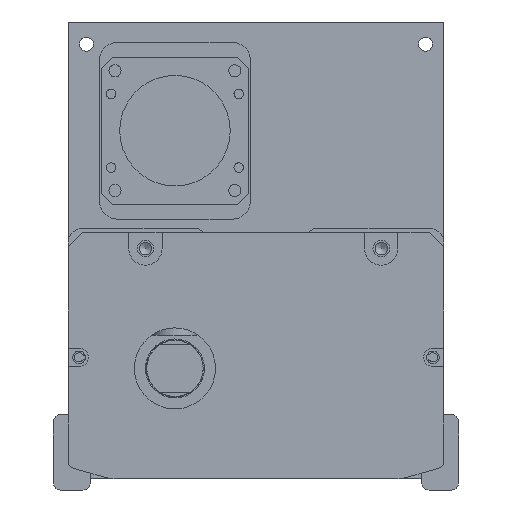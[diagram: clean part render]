
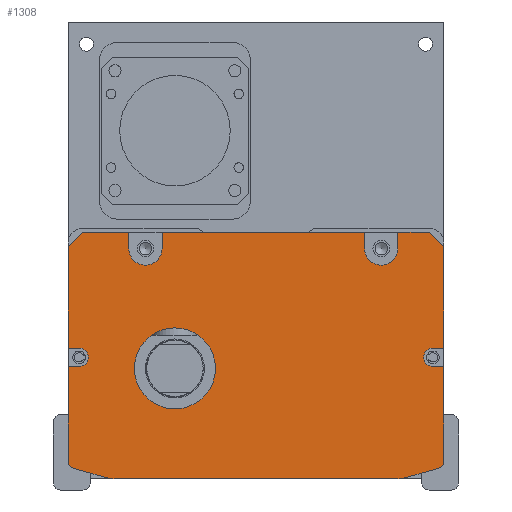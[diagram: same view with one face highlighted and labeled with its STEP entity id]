
A CAD part, front view. The second image highlights one B-rep face of the part: STEP entity #1308.
In plain terms, the highlighted planar face has unit normal (0, -1, 0).
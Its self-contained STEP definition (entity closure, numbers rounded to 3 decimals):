
#1308=ADVANCED_FACE('',(#3107,#3108),#2065,.F.);
#2065=PLANE('',#12679);
#2438=CIRCLE('',#12670,4.5);
#2439=CIRCLE('',#12671,4.5);
#2440=CIRCLE('',#12672,2.5);
#2441=CIRCLE('',#12673,2.);
#2442=CIRCLE('',#12674,10.);
#2443=CIRCLE('',#12675,10.);
#2444=CIRCLE('',#12676,2.);
#2445=CIRCLE('',#12677,2.5);
#2446=CIRCLE('',#12678,11.);
#3107=FACE_BOUND('',#3717,.T.);
#3108=FACE_BOUND('',#3718,.T.);
#3717=EDGE_LOOP('',(#4946,#4947,#4948,#4949,#4950,#4951,#4952,#4953,#4954,
#4955,#4956,#4957,#4958,#4959,#4960,#4961,#4962,#4963,#4964,#4965,#4966,
#4967,#4968,#4969,#4970,#4971,#4972,#4973));
#3718=EDGE_LOOP('',(#4974));
#4946=ORIENTED_EDGE('',*,*,#9535,.T.);
#4947=ORIENTED_EDGE('',*,*,#9536,.T.);
#4948=ORIENTED_EDGE('',*,*,#9537,.T.);
#4949=ORIENTED_EDGE('',*,*,#9538,.F.);
#4950=ORIENTED_EDGE('',*,*,#9539,.T.);
#4951=ORIENTED_EDGE('',*,*,#9540,.F.);
#4952=ORIENTED_EDGE('',*,*,#9541,.T.);
#4953=ORIENTED_EDGE('',*,*,#9542,.F.);
#4954=ORIENTED_EDGE('',*,*,#9543,.T.);
#4955=ORIENTED_EDGE('',*,*,#9544,.F.);
#4956=ORIENTED_EDGE('',*,*,#9545,.T.);
#4957=ORIENTED_EDGE('',*,*,#9546,.T.);
#4958=ORIENTED_EDGE('',*,*,#9547,.T.);
#4959=ORIENTED_EDGE('',*,*,#9548,.T.);
#4960=ORIENTED_EDGE('',*,*,#9549,.T.);
#4961=ORIENTED_EDGE('',*,*,#9550,.T.);
#4962=ORIENTED_EDGE('',*,*,#9551,.T.);
#4963=ORIENTED_EDGE('',*,*,#9552,.T.);
#4964=ORIENTED_EDGE('',*,*,#9553,.T.);
#4965=ORIENTED_EDGE('',*,*,#9554,.T.);
#4966=ORIENTED_EDGE('',*,*,#9555,.T.);
#4967=ORIENTED_EDGE('',*,*,#9556,.T.);
#4968=ORIENTED_EDGE('',*,*,#9557,.T.);
#4969=ORIENTED_EDGE('',*,*,#9558,.T.);
#4970=ORIENTED_EDGE('',*,*,#9559,.T.);
#4971=ORIENTED_EDGE('',*,*,#9560,.T.);
#4972=ORIENTED_EDGE('',*,*,#9561,.T.);
#4973=ORIENTED_EDGE('',*,*,#9562,.T.);
#4974=ORIENTED_EDGE('',*,*,#9563,.T.);
#8327=VERTEX_POINT('',#18117);
#8328=VERTEX_POINT('',#18118);
#8329=VERTEX_POINT('',#18120);
#8330=VERTEX_POINT('',#18122);
#8331=VERTEX_POINT('',#18124);
#8332=VERTEX_POINT('',#18126);
#8333=VERTEX_POINT('',#18128);
#8334=VERTEX_POINT('',#18130);
#8335=VERTEX_POINT('',#18132);
#8336=VERTEX_POINT('',#18134);
#8337=VERTEX_POINT('',#18136);
#8338=VERTEX_POINT('',#18138);
#8339=VERTEX_POINT('',#18140);
#8340=VERTEX_POINT('',#18142);
#8341=VERTEX_POINT('',#18144);
#8342=VERTEX_POINT('',#18146);
#8343=VERTEX_POINT('',#18148);
#8344=VERTEX_POINT('',#18150);
#8345=VERTEX_POINT('',#18152);
#8346=VERTEX_POINT('',#18154);
#8347=VERTEX_POINT('',#18156);
#8348=VERTEX_POINT('',#18158);
#8349=VERTEX_POINT('',#18160);
#8350=VERTEX_POINT('',#18162);
#8351=VERTEX_POINT('',#18164);
#8352=VERTEX_POINT('',#18166);
#8353=VERTEX_POINT('',#18168);
#8354=VERTEX_POINT('',#18170);
#8355=VERTEX_POINT('',#18173);
#9535=EDGE_CURVE('',#8327,#8328,#11138,.T.);
#9536=EDGE_CURVE('',#8328,#8329,#11139,.T.);
#9537=EDGE_CURVE('',#8329,#8330,#11140,.T.);
#9538=EDGE_CURVE('',#8331,#8330,#11141,.T.);
#9539=EDGE_CURVE('',#8331,#8332,#2438,.T.);
#9540=EDGE_CURVE('',#8333,#8332,#11142,.T.);
#9541=EDGE_CURVE('',#8333,#8334,#11143,.T.);
#9542=EDGE_CURVE('',#8335,#8334,#11144,.T.);
#9543=EDGE_CURVE('',#8335,#8336,#2439,.T.);
#9544=EDGE_CURVE('',#8337,#8336,#11145,.T.);
#9545=EDGE_CURVE('',#8337,#8338,#11146,.T.);
#9546=EDGE_CURVE('',#8338,#8339,#11147,.T.);
#9547=EDGE_CURVE('',#8339,#8340,#11148,.T.);
#9548=EDGE_CURVE('',#8340,#8341,#11149,.T.);
#9549=EDGE_CURVE('',#8341,#8342,#2440,.T.);
#9550=EDGE_CURVE('',#8342,#8343,#11150,.T.);
#9551=EDGE_CURVE('',#8343,#8344,#11151,.T.);
#9552=EDGE_CURVE('',#8344,#8345,#2441,.T.);
#9553=EDGE_CURVE('',#8345,#8346,#11152,.T.);
#9554=EDGE_CURVE('',#8346,#8347,#2442,.T.);
#9555=EDGE_CURVE('',#8347,#8348,#11153,.T.);
#9556=EDGE_CURVE('',#8348,#8349,#2443,.T.);
#9557=EDGE_CURVE('',#8349,#8350,#11154,.T.);
#9558=EDGE_CURVE('',#8350,#8351,#2444,.T.);
#9559=EDGE_CURVE('',#8351,#8352,#11155,.T.);
#9560=EDGE_CURVE('',#8352,#8353,#11156,.T.);
#9561=EDGE_CURVE('',#8353,#8354,#2445,.T.);
#9562=EDGE_CURVE('',#8354,#8327,#11157,.T.);
#9563=EDGE_CURVE('',#8355,#8355,#2446,.T.);
#11138=LINE('',#18116,#11900);
#11139=LINE('',#18119,#11901);
#11140=LINE('',#18121,#11902);
#11141=LINE('',#18123,#11903);
#11142=LINE('',#18127,#11904);
#11143=LINE('',#18129,#11905);
#11144=LINE('',#18131,#11906);
#11145=LINE('',#18135,#11907);
#11146=LINE('',#18137,#11908);
#11147=LINE('',#18139,#11909);
#11148=LINE('',#18141,#11910);
#11149=LINE('',#18143,#11911);
#11150=LINE('',#18147,#11912);
#11151=LINE('',#18149,#11913);
#11152=LINE('',#18153,#11914);
#11153=LINE('',#18157,#11915);
#11154=LINE('',#18161,#11916);
#11155=LINE('',#18165,#11917);
#11156=LINE('',#18167,#11918);
#11157=LINE('',#18171,#11919);
#11900=VECTOR('',#14347,1.);
#11901=VECTOR('',#14348,1.);
#11902=VECTOR('',#14349,1.);
#11903=VECTOR('',#14350,1.);
#11904=VECTOR('',#14353,1.);
#11905=VECTOR('',#14354,1.);
#11906=VECTOR('',#14355,1.);
#11907=VECTOR('',#14358,1.);
#11908=VECTOR('',#14359,1.);
#11909=VECTOR('',#14360,1.);
#11910=VECTOR('',#14361,1.);
#11911=VECTOR('',#14362,1.);
#11912=VECTOR('',#14365,1.);
#11913=VECTOR('',#14366,1.);
#11914=VECTOR('',#14369,1.);
#11915=VECTOR('',#14372,1.);
#11916=VECTOR('',#14375,1.);
#11917=VECTOR('',#14378,1.);
#11918=VECTOR('',#14379,1.);
#11919=VECTOR('',#14382,1.);
#12670=AXIS2_PLACEMENT_3D('',#18125,#14351,#14352);
#12671=AXIS2_PLACEMENT_3D('',#18133,#14356,#14357);
#12672=AXIS2_PLACEMENT_3D('',#18145,#14363,#14364);
#12673=AXIS2_PLACEMENT_3D('',#18151,#14367,#14368);
#12674=AXIS2_PLACEMENT_3D('',#18155,#14370,#14371);
#12675=AXIS2_PLACEMENT_3D('',#18159,#14373,#14374);
#12676=AXIS2_PLACEMENT_3D('',#18163,#14376,#14377);
#12677=AXIS2_PLACEMENT_3D('',#18169,#14380,#14381);
#12678=AXIS2_PLACEMENT_3D('',#18172,#14383,#14384);
#12679=AXIS2_PLACEMENT_3D('',#18174,#14385,#14386);
#14347=DIRECTION('',(0.,0.,1.));
#14348=DIRECTION('',(-0.707,0.,0.707));
#14349=DIRECTION('',(-1.,0.,0.));
#14350=DIRECTION('',(0.,0.,1.));
#14351=DIRECTION('',(0.,1.,0.));
#14352=DIRECTION('',(0.,0.,1.));
#14353=DIRECTION('',(0.,0.,-1.));
#14354=DIRECTION('',(-1.,0.,0.));
#14355=DIRECTION('',(0.,0.,1.));
#14356=DIRECTION('',(0.,1.,0.));
#14357=DIRECTION('',(0.,0.,1.));
#14358=DIRECTION('',(0.,0.,-1.));
#14359=DIRECTION('',(-1.,0.,0.));
#14360=DIRECTION('',(-0.707,0.,-0.707));
#14361=DIRECTION('',(0.,0.,-1.));
#14362=DIRECTION('',(1.,0.,0.));
#14363=DIRECTION('',(0.,1.,0.));
#14364=DIRECTION('',(0.,0.,1.));
#14365=DIRECTION('',(-1.,0.,0.));
#14366=DIRECTION('',(0.,0.,-1.));
#14367=DIRECTION('',(0.,-1.,0.));
#14368=DIRECTION('',(0.,0.,1.));
#14369=DIRECTION('',(0.963,0.,-0.269));
#14370=DIRECTION('',(0.,-1.,0.));
#14371=DIRECTION('',(0.,0.,1.));
#14372=DIRECTION('',(1.,0.,0.));
#14373=DIRECTION('',(0.,-1.,0.));
#14374=DIRECTION('',(0.,0.,-1.));
#14375=DIRECTION('',(0.963,0.,0.269));
#14376=DIRECTION('',(0.,-1.,0.));
#14377=DIRECTION('',(0.,0.,-1.));
#14378=DIRECTION('',(0.,0.,1.));
#14379=DIRECTION('',(-1.,0.,0.));
#14380=DIRECTION('',(0.,1.,0.));
#14381=DIRECTION('',(0.,0.,1.));
#14382=DIRECTION('',(1.,0.,0.));
#14383=DIRECTION('',(0.,1.,0.));
#14384=DIRECTION('',(0.,0.,1.));
#14385=DIRECTION('',(0.,1.,0.));
#14386=DIRECTION('',(-1.,0.,0.));
#18116=CARTESIAN_POINT('',(47.808,-117.5,-1.));
#18117=CARTESIAN_POINT('',(47.808,-117.5,-32.5));
#18118=CARTESIAN_POINT('',(47.808,-117.5,-5.));
#18119=CARTESIAN_POINT('',(43.808,-117.5,-1.));
#18120=CARTESIAN_POINT('',(43.808,-117.5,-1.));
#18121=CARTESIAN_POINT('',(-3.192,-117.5,-1.));
#18122=CARTESIAN_POINT('',(35.308,-117.5,-1.));
#18123=CARTESIAN_POINT('',(35.308,-117.5,-1.));
#18124=CARTESIAN_POINT('',(35.308,-117.5,-5.5));
#18125=CARTESIAN_POINT('',(30.808,-117.5,-5.5));
#18126=CARTESIAN_POINT('',(26.308,-117.5,-5.5));
#18127=CARTESIAN_POINT('',(26.308,-117.5,-1.));
#18128=CARTESIAN_POINT('',(26.308,-117.5,-1.));
#18129=CARTESIAN_POINT('',(-54.192,-117.5,-1.));
#18130=CARTESIAN_POINT('',(-28.692,-117.5,-1.));
#18131=CARTESIAN_POINT('',(-28.692,-117.5,-3.5));
#18132=CARTESIAN_POINT('',(-28.692,-117.5,-5.5));
#18133=CARTESIAN_POINT('',(-33.192,-117.5,-5.5));
#18134=CARTESIAN_POINT('',(-37.692,-117.5,-5.5));
#18135=CARTESIAN_POINT('',(-37.692,-117.5,-1.));
#18136=CARTESIAN_POINT('',(-37.692,-117.5,-1.));
#18137=CARTESIAN_POINT('',(-54.192,-117.5,-1.));
#18138=CARTESIAN_POINT('',(-50.192,-117.5,-1.));
#18139=CARTESIAN_POINT('',(-54.192,-117.5,-5.));
#18140=CARTESIAN_POINT('',(-54.192,-117.5,-5.));
#18141=CARTESIAN_POINT('',(-54.192,-117.5,-62.));
#18142=CARTESIAN_POINT('',(-54.192,-117.5,-32.5));
#18143=CARTESIAN_POINT('',(-3.192,-117.5,-32.5));
#18144=CARTESIAN_POINT('',(-51.192,-117.5,-32.5));
#18145=CARTESIAN_POINT('',(-51.192,-117.5,-35.));
#18146=CARTESIAN_POINT('',(-51.192,-117.5,-37.5));
#18147=CARTESIAN_POINT('',(-3.192,-117.5,-37.5));
#18148=CARTESIAN_POINT('',(-54.192,-117.5,-37.5));
#18149=CARTESIAN_POINT('',(-54.192,-117.5,-62.));
#18150=CARTESIAN_POINT('',(-54.192,-117.5,-63.212));
#18151=CARTESIAN_POINT('',(-52.192,-117.5,-63.212));
#18152=CARTESIAN_POINT('',(-52.731,-117.5,-65.138));
#18153=CARTESIAN_POINT('',(-55.807,-117.5,-64.279));
#18154=CARTESIAN_POINT('',(-43.809,-117.5,-67.631));
#18155=CARTESIAN_POINT('',(-41.118,-117.5,-58.));
#18156=CARTESIAN_POINT('',(-41.118,-117.5,-68.));
#18157=CARTESIAN_POINT('',(-54.692,-117.5,-68.));
#18158=CARTESIAN_POINT('',(34.733,-117.5,-68.));
#18159=CARTESIAN_POINT('',(34.733,-117.5,-58.));
#18160=CARTESIAN_POINT('',(37.424,-117.5,-67.631));
#18161=CARTESIAN_POINT('',(49.422,-117.5,-64.279));
#18162=CARTESIAN_POINT('',(46.346,-117.5,-65.138));
#18163=CARTESIAN_POINT('',(45.808,-117.5,-63.212));
#18164=CARTESIAN_POINT('',(47.808,-117.5,-63.212));
#18165=CARTESIAN_POINT('',(47.808,-117.5,-1.));
#18166=CARTESIAN_POINT('',(47.808,-117.5,-37.5));
#18167=CARTESIAN_POINT('',(-3.192,-117.5,-37.5));
#18168=CARTESIAN_POINT('',(44.808,-117.5,-37.5));
#18169=CARTESIAN_POINT('',(44.808,-117.5,-35.));
#18170=CARTESIAN_POINT('',(44.808,-117.5,-32.5));
#18171=CARTESIAN_POINT('',(-3.192,-117.5,-32.5));
#18172=CARTESIAN_POINT('',(-25.192,-117.5,-38.));
#18173=CARTESIAN_POINT('',(-25.192,-117.5,-27.));
#18174=CARTESIAN_POINT('',(-3.192,-117.5,-1.));
